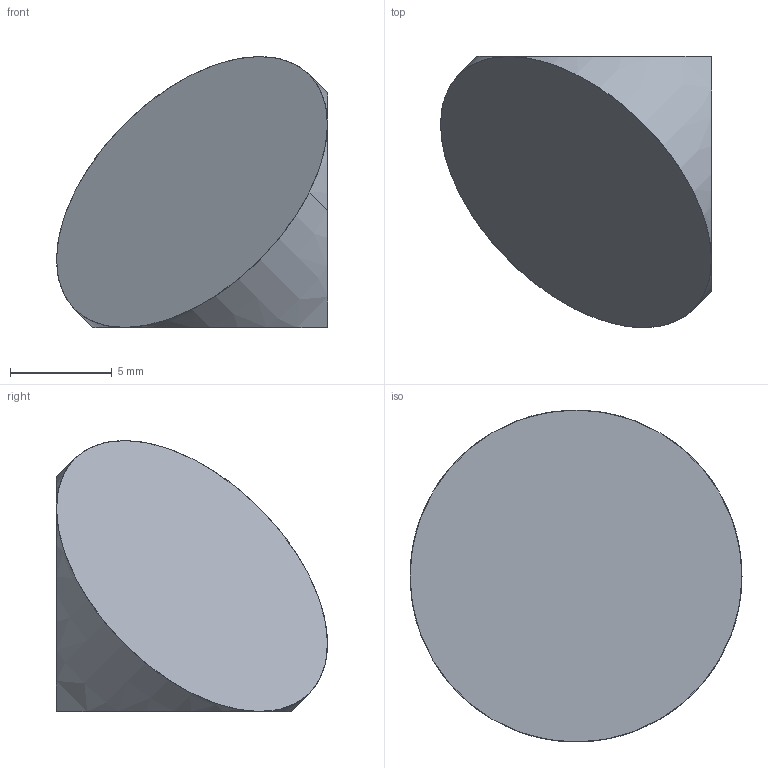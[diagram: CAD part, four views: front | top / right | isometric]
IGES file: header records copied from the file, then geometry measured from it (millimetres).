
Start section: SolidWorks IGES FILE using analytic representation for surfaces
Global section: file name: C:\ZEMAX\Objects\retro_corner.IGS; native system: SolidWorks 2000 by SolidWorks Corporation; preprocessor: Version 5.2; author: user; date: 010715.183201; units: millimetre
Bounding box: 13.33 x 13.33 x 13.33 mm (x, y, z)
Surface area: 674.7 mm2 (no closed solid volume)
Topology: 0 solids, 0 shells, 8 faces, 140 edges, 140 vertices
Faces by surface type: revolution 4, bspline 4
